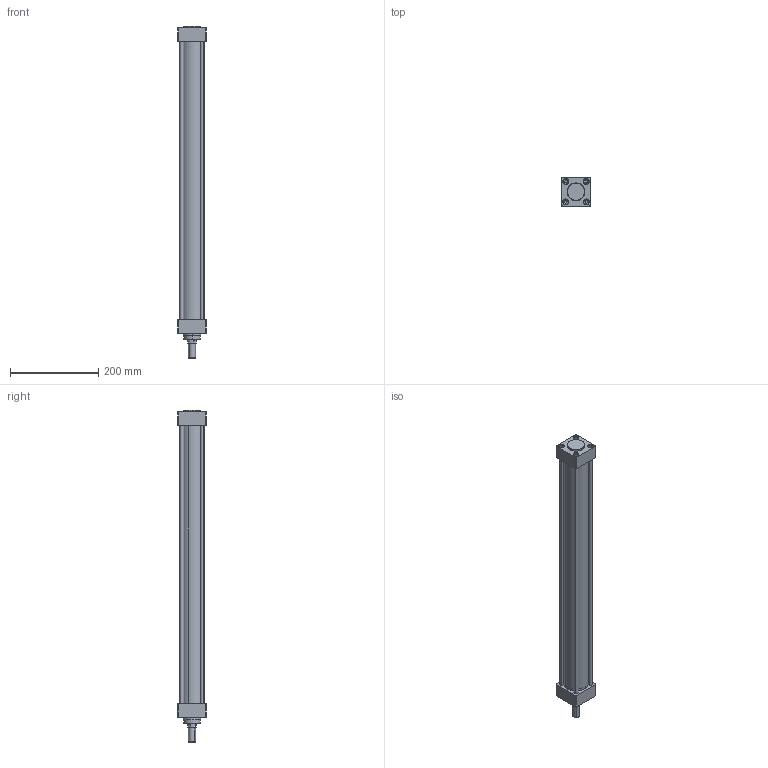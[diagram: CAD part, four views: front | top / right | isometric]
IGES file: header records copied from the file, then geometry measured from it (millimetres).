
Start section: SolidWorks IGES file using analytic representation for surfaces
Global section: file name: D:\ARICA 3D ÇÝZÝMLER\3D IGES\SC-CR-S KROM SERÝSÝ\SC-CR-S 50\SC-CR-S-50X600CYLINDER.IGS; native system: SolidWorks 2013; preprocessor: SolidWorks 2013; author: user; date: 161027.141935; units: millimetre
Bounding box: 65 x 65 x 754.2 mm (x, y, z)
Surface area: 401159.6 mm2 (no closed solid volume)
Topology: 0 solids, 0 shells, 381 faces, 6343 edges, 6341 vertices
Faces by surface type: revolution 230, bspline 151
